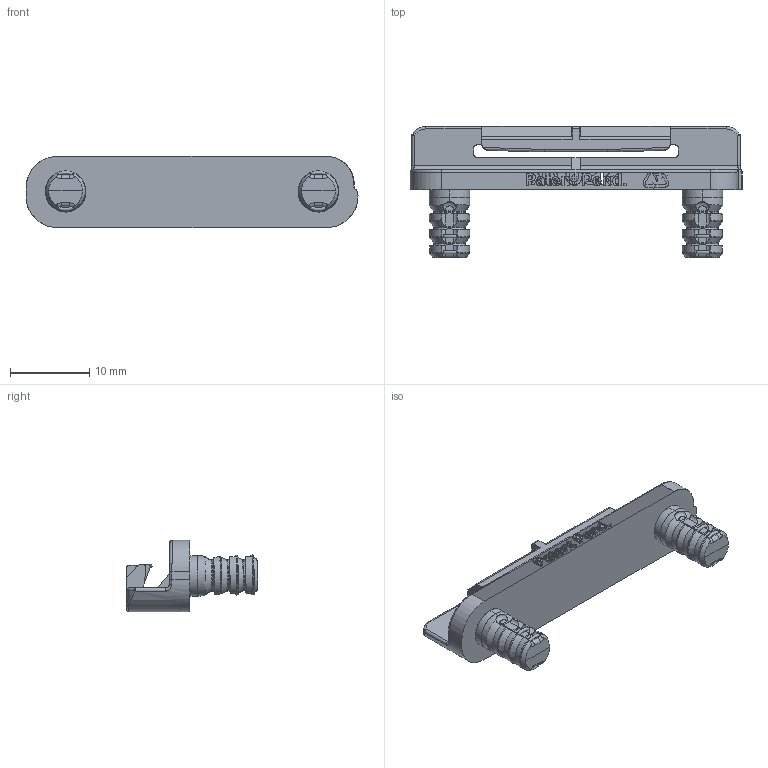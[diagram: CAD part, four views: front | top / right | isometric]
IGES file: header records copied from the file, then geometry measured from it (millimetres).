
Start section: 3D InterOp IGES (v. 2022 1.0.1), Spatial Corp. Copyright (c) 1999-2020.
Global section: file name: E547-W_11.04.565-0 Slide-on Connector Maki W_5x9mm Dowels cc 32mm Grey.igs; native system: Spatial Corp.; preprocessor: 3D InterOp GENERIC/IGES 3.0; author: Noname; organization: Noname; date: 20251208.170217; units: millimetre
Bounding box: 41.91 x 16.55 x 9 mm (x, y, z)
Surface area: 2047.8 mm2 (no closed solid volume)
Topology: 0 solids, 0 shells, 544 faces, 3287 edges, 3267 vertices
Faces by surface type: extrusion 215, bspline 181, revolution 148
